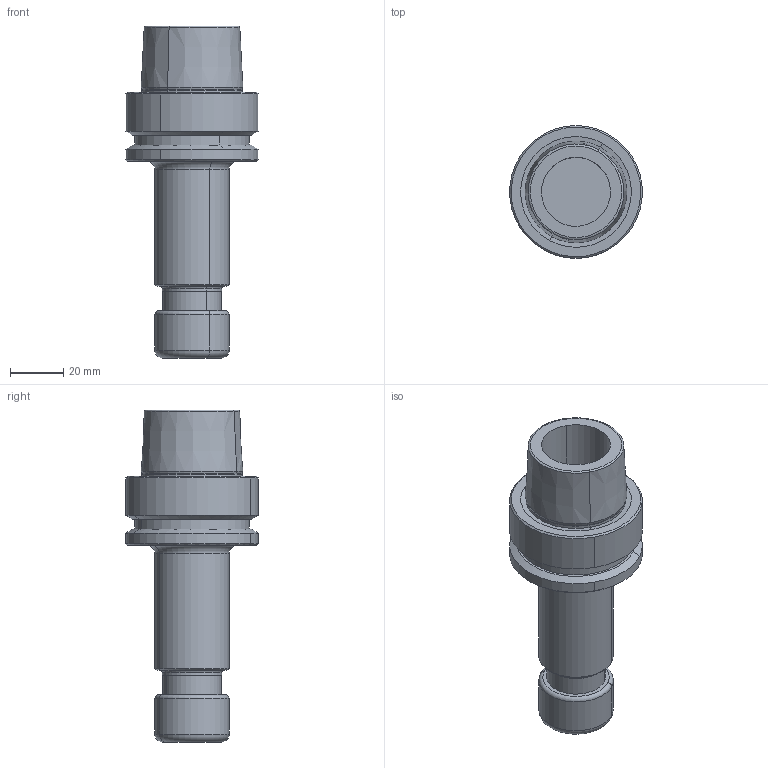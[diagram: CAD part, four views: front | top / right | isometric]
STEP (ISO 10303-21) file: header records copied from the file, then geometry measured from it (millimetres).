
FILE_DESCRIPTION(('CATIA V5 STEP','CAx-IF Rec.Pracs.--- Model Styling and Organization---1.2---2011-12-15'),'2;1');
FILE_NAME('\\nas01\drv1\utils\eitdev\rte\eit\transmagicconvert\db\out\635934747434575829\4504489-D-L-B.stp','2016-03-13T12:05:56+00:00',('none'),('none'),'CATIA Version 5 Release 21 SP 5 (IN-10)','CATIA V5 STEP AP214','none');
FILE_SCHEMA(('AUTOMOTIVE_DESIGN { 1 0 10303 214 1 1 1 1 }'));
Length unit declared in the file: millimetre
Products named in the file (1): HSK E 50 ER16X100
Bounding box: 49.83 x 50 x 125 mm (x, y, z)
Volume: 94904.9 mm3; surface area: 22251.3 mm2
Topology: 1 solids, 1 shells, 68 faces, 144 edges, 85 vertices
Faces by surface type: cylinder 22, cone 20, torus 14, plane 10, extrusion 2
Entity records: 1737 total; most frequent: CARTESIAN_POINT 390, ORIENTED_EDGE 284, DIRECTION 220, EDGE_CURVE 142, AXIS2_PLACEMENT_3D 135, CIRCLE 94, VERTEX_POINT 85, EDGE_LOOP 77
